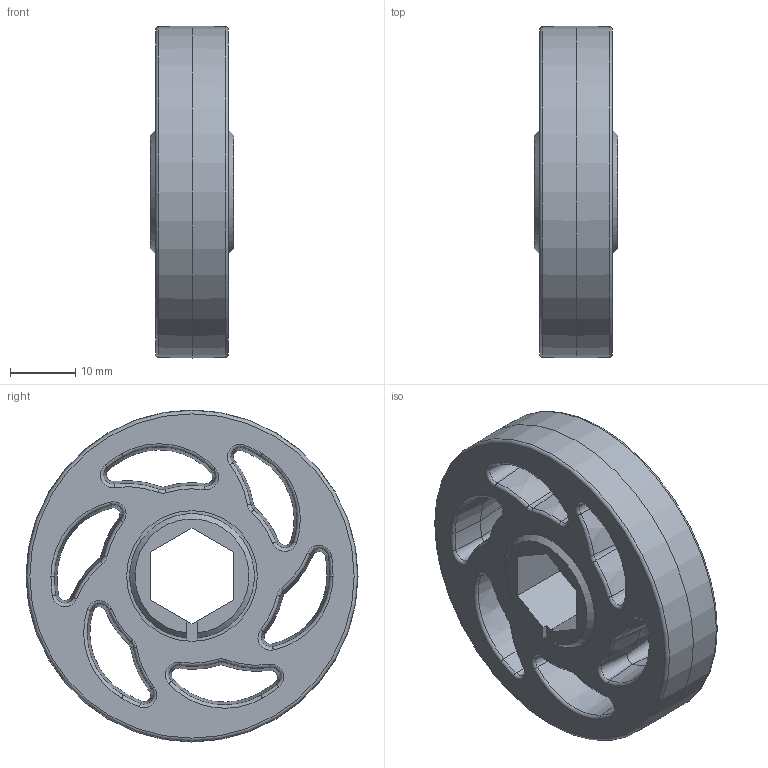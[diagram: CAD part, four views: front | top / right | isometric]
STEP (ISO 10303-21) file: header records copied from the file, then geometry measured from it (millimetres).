
FILE_DESCRIPTION(/* description */ (''),/* implementation_level */ '2;1');
FILE_NAME(/* name */ '2in Compliant Wheel .step',/* time_stamp */ '2022-12-29T15:50:01-08:00',/* author */ (''),/* organization */ (''),/* preprocessor_version */ 'ST-DEVELOPER v19.2',/* originating_system */ 'Autodesk Translation Framework v11.17.0.187',/* authorisation */ '');
FILE_SCHEMA (('AUTOMOTIVE_DESIGN { 1 0 10303 214 3 1 1 }'));
Length unit declared in the file: inch
Products named in the file (1): 2in Compliant Wheel
Bounding box: 12.7 x 50.8 x 50.8 mm (x, y, z)
Volume: 16206.5 mm3; surface area: 8929.8 mm2
Topology: 2 solids, 2 shells, 192 faces, 435 edges, 247 vertices
Faces by surface type: cone 88, torus 86, plane 16, cylinder 2
Full cylindrical faces by diameter (mm): 20 x2
Entity records: 5480 total; most frequent: DIRECTION 1126, CARTESIAN_POINT 887, ORIENTED_EDGE 870, AXIS2_PLACEMENT_3D 502, EDGE_CURVE 435, CIRCLE 309, VERTEX_POINT 247, EDGE_LOOP 208
